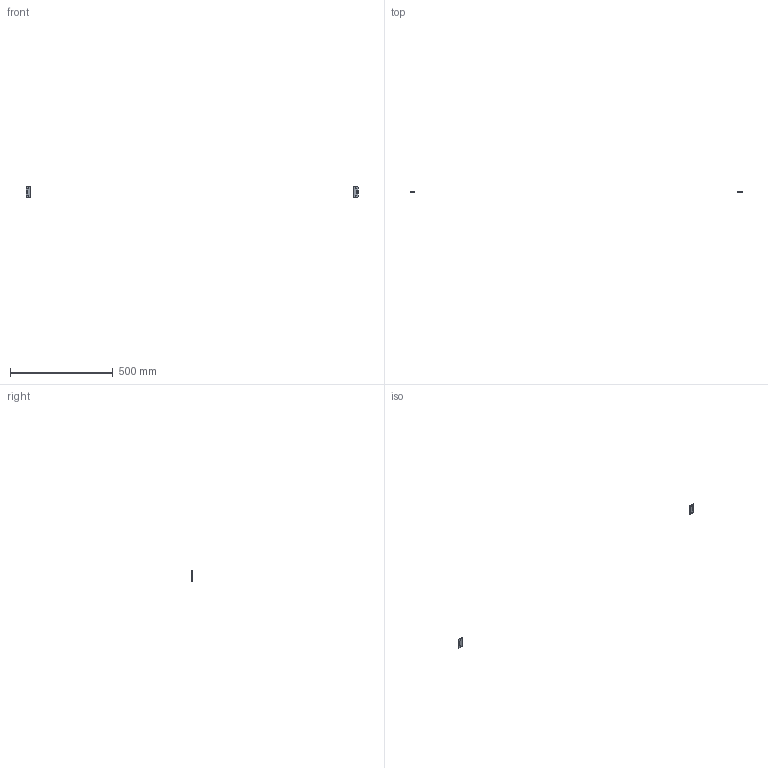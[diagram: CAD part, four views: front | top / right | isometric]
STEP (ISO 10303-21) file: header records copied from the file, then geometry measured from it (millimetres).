
FILE_DESCRIPTION(/* description */ (''),/* implementation_level */ '2;1');
FILE_NAME(/* name */ '3.frame-top#3.3#la-pan-3',/* time_stamp */ '2014-12-01T20:12:13+01:00',/* author */ (''),/* organization */ (''),/* preprocessor_version */ 'ST-DEVELOPER v14',/* originating_system */ '',/* authorisation */ '');
FILE_SCHEMA (('AUTOMOTIVE_DESIGN'));
Length unit declared in the file: millimetre
Products named in the file (1): Document
Bounding box: 1612 x 3 x 50 mm (x, y, z)
Volume: 6310.1 mm3; surface area: 5303.1 mm2
Topology: 2 solids, 2 shells, 52 faces, 144 edges, 96 vertices
Faces by surface type: bspline 36, plane 16
Entity records: 3319 total; most frequent: CARTESIAN_POINT 1554, ORIENTED_EDGE 288, PCURVE 288, DEFINITIONAL_REPRESENTATION 288, B_SPLINE_CURVE_WITH_KNOTS 252, SURFACE_CURVE 144, EDGE_CURVE 144, VERTEX_POINT 96
